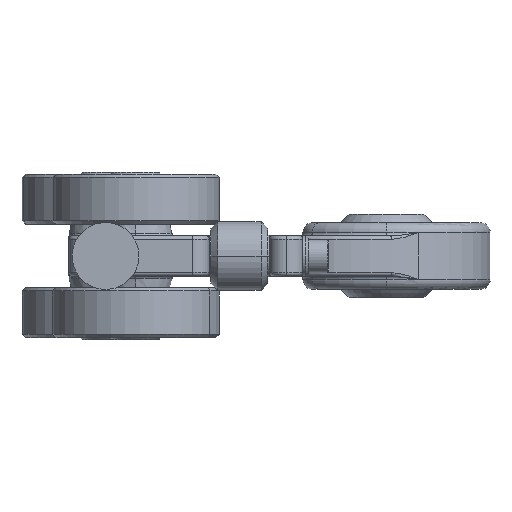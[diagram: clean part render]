
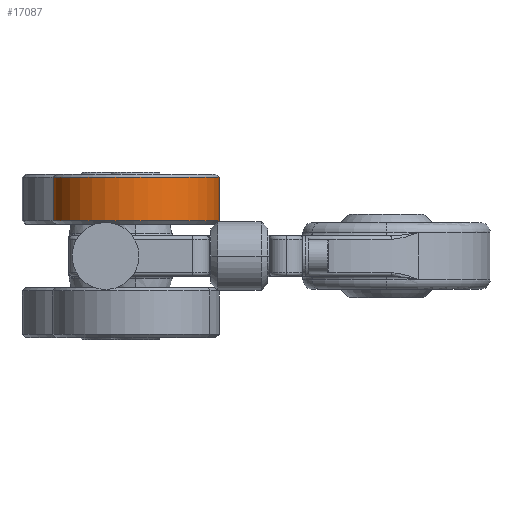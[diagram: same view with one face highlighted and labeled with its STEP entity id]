
A CAD part, left-side view. The second image highlights one B-rep face of the part: STEP entity #17087.
In plain terms, the highlighted cylindrical face has radius 25 mm (diameter 50 mm), a partial arc.
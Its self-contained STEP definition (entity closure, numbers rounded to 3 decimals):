
#6472 = VERTEX_POINT ( 'NONE', #24349 ) ;
#6473 = VERTEX_POINT ( 'NONE', #24350 ) ;
#6486 = VERTEX_POINT ( 'NONE', #24363 ) ;
#6487 = VERTEX_POINT ( 'NONE', #24364 ) ;
#16835 = EDGE_CURVE ( 'NONE', #6486, #6487, #25682, .T. ) ;
#16837 = EDGE_CURVE ( 'NONE', #6487, #6472, #25683, .T. ) ;
#16838 = EDGE_CURVE ( 'NONE', #6473, #6472, #25686, .T. ) ;
#16839 = EDGE_CURVE ( 'NONE', #6486, #6473, #25684, .T. ) ;
#17087 = ADVANCED_FACE ( 'NONE', ( #25925 ), #25915, .T. ) ;
#19123 = ORIENTED_EDGE ( 'NONE', *, *, #16835, .T. ) ;
#19124 = ORIENTED_EDGE ( 'NONE', *, *, #16837, .T. ) ;
#19125 = ORIENTED_EDGE ( 'NONE', *, *, #16838, .F. ) ;
#19126 = ORIENTED_EDGE ( 'NONE', *, *, #16839, .F. ) ;
#21587 = AXIS2_PLACEMENT_3D ( 'NONE', #26898, #26899, #26900 ) ;
#21588 = AXIS2_PLACEMENT_3D ( 'NONE', #26904, #26905, #26906 ) ;
#21736 = AXIS2_PLACEMENT_3D ( 'NONE', #27485, #27486, #27484 ) ;
#23773 = EDGE_LOOP ( 'NONE', ( #19123, #19124, #19125, #19126 ) ) ;
#24349 = CARTESIAN_POINT ( 'NONE',  ( 25., 0., 1. ) ) ;
#24350 = CARTESIAN_POINT ( 'NONE',  ( -25., 0., 1. ) ) ;
#24363 = CARTESIAN_POINT ( 'NONE',  ( -25., 0., 14. ) ) ;
#24364 = CARTESIAN_POINT ( 'NONE',  ( 25., 0., 14. ) ) ;
#25682 = CIRCLE ( 'NONE', #21587, 25. ) ;
#25683 = LINE ( 'NONE', #26896, #25687 ) ;
#25684 = LINE ( 'NONE', #26903, #25690 ) ;
#25686 = CIRCLE ( 'NONE', #21588, 25. ) ;
#25687 = VECTOR ( 'NONE', #26902, 1000. ) ;
#25690 = VECTOR ( 'NONE', #26901, 1000. ) ;
#25915 = CYLINDRICAL_SURFACE ( 'NONE', #21736, 25. ) ;
#25925 = FACE_OUTER_BOUND ( 'NONE', #23773, .T. ) ;
#26896 = CARTESIAN_POINT ( 'NONE',  ( 25., 0., 15. ) ) ;
#26898 = CARTESIAN_POINT ( 'NONE',  ( 0., 0., 14. ) ) ;
#26899 = DIRECTION ( 'NONE',  ( 0., 0., -1. ) ) ;
#26900 = DIRECTION ( 'NONE',  ( -1., 0., 0. ) ) ;
#26901 = DIRECTION ( 'NONE',  ( 0., 0., -1. ) ) ;
#26902 = DIRECTION ( 'NONE',  ( 0., 0., -1. ) ) ;
#26903 = CARTESIAN_POINT ( 'NONE',  ( -25., 0., 15. ) ) ;
#26904 = CARTESIAN_POINT ( 'NONE',  ( 0., 0., 1. ) ) ;
#26905 = DIRECTION ( 'NONE',  ( 0., 0., -1. ) ) ;
#26906 = DIRECTION ( 'NONE',  ( -1., 0., 0. ) ) ;
#27484 = DIRECTION ( 'NONE',  ( -1., 0., 0. ) ) ;
#27485 = CARTESIAN_POINT ( 'NONE',  ( 0., 0., 15. ) ) ;
#27486 = DIRECTION ( 'NONE',  ( 0., 0., -1. ) ) ;
